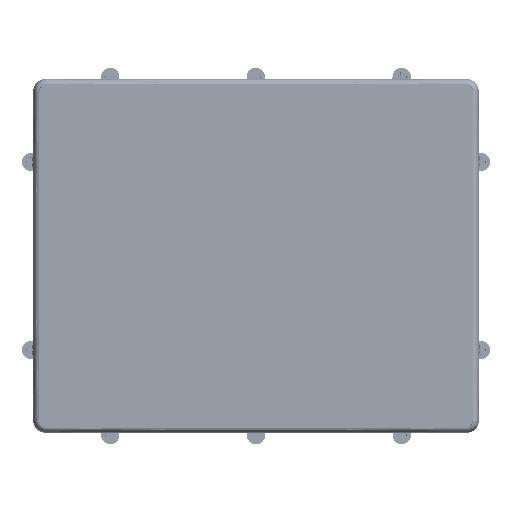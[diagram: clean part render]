
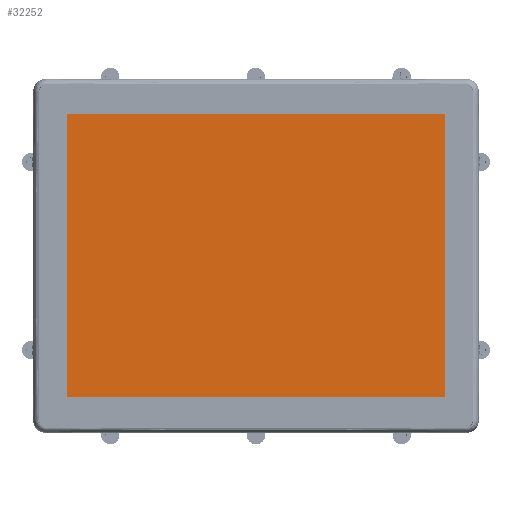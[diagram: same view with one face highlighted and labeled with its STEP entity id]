
A CAD part, top view. The second image highlights one B-rep face of the part: STEP entity #32252.
In plain terms, the highlighted planar face has unit normal (0, 0, 1).
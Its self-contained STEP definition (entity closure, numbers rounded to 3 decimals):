
#7143=DIRECTION('',(0.,-1.,0.));
#7144=VECTOR('',#7143,228.9);
#7145=CARTESIAN_POINT('',(-152.5,114.45,5.92));
#7146=LINE('',#7145,#7144);
#7159=DIRECTION('',(1.,0.,0.));
#7160=VECTOR('',#7159,305.);
#7161=CARTESIAN_POINT('',(-152.5,-114.45,5.92));
#7162=LINE('',#7161,#7160);
#7171=DIRECTION('',(0.,1.,0.));
#7172=VECTOR('',#7171,228.9);
#7173=CARTESIAN_POINT('',(152.5,-114.45,5.92));
#7174=LINE('',#7173,#7172);
#7183=DIRECTION('',(-1.,0.,0.));
#7184=VECTOR('',#7183,305.);
#7185=CARTESIAN_POINT('',(152.5,114.45,5.92));
#7186=LINE('',#7185,#7184);
#23490=CARTESIAN_POINT('',(152.5,114.45,5.92));
#23491=CARTESIAN_POINT('',(-152.5,114.45,5.92));
#23492=VERTEX_POINT('',#23490);
#23493=VERTEX_POINT('',#23491);
#23494=CARTESIAN_POINT('',(152.5,-114.45,5.92));
#23495=VERTEX_POINT('',#23494);
#23496=CARTESIAN_POINT('',(-152.5,-114.45,5.92));
#23497=VERTEX_POINT('',#23496);
#32241=CARTESIAN_POINT('',(0.,0.,5.92));
#32242=DIRECTION('',(0.,0.,1.));
#32243=DIRECTION('',(1.,0.,0.));
#32244=AXIS2_PLACEMENT_3D('',#32241,#32242,#32243);
#32245=PLANE('',#32244);
#32246=ORIENTED_EDGE('',*,*,#32229,.F.);
#32247=ORIENTED_EDGE('',*,*,#32209,.F.);
#32248=ORIENTED_EDGE('',*,*,#32188,.F.);
#32249=ORIENTED_EDGE('',*,*,#32167,.F.);
#32250=EDGE_LOOP('',(#32246,#32247,#32248,#32249));
#32251=FACE_OUTER_BOUND('',#32250,.F.);
#32252=ADVANCED_FACE('',(#32251),#32245,.T.);
#32167=EDGE_CURVE('',#23493,#23497,#7146,.T.);
#32188=EDGE_CURVE('',#23497,#23495,#7162,.T.);
#32209=EDGE_CURVE('',#23495,#23492,#7174,.T.);
#32229=EDGE_CURVE('',#23492,#23493,#7186,.T.);
